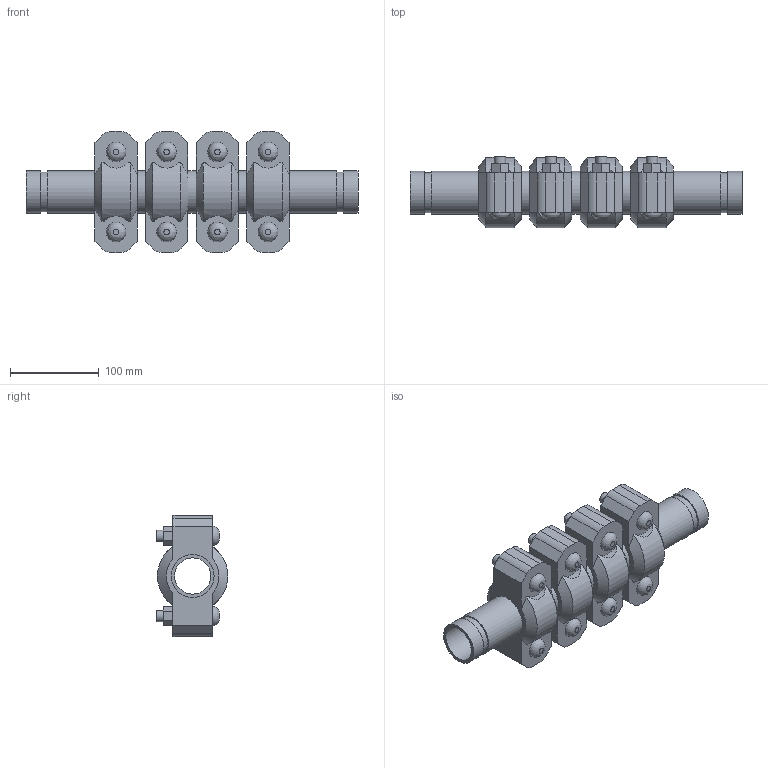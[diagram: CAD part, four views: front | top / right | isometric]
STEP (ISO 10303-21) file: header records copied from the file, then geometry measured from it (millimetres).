
FILE_DESCRIPTION(/* description */ ('VIC EXPANSION JOINT 4 COUPLINGS COMPRESSED STYLE 155 (OGS)','CAx-IF Rec.Pracs.---Representation and Presentation of Product Manufacturing Information (PMI)---4.0---2014-10-13'),/* implementation_level */ '2;1');
FILE_NAME(/* name */ 'C:\Users\kkamble\AppData\Roaming\Autodesk\ApplicationPlugins\Victaulic.Temp\A318\Victaulic_IPS_Expansion Joint_Compressed_4 Couplings_Style 155 (OGS)_1.5 (40).stp',/* time_stamp */ '2021-06-27T00:27:11+02:00',/* author */ ('kkamble'),/* organization */ ('Victaulic'),/* preprocessor_version */ 'ST-DEVELOPER v17.2',/* originating_system */ 'Autodesk Inventor 2019',/* authorisation */ '');
FILE_SCHEMA (('AP242_MANAGED_MODEL_BASED_3D_ENGINEERING_MIM_LF { 1 0 10303 442 1 1 4 }'));
Length unit declared in the file: inch
Products named in the file (4): 155-01.5; Nipple-01.5; Nipple-01.5_1; 077-01.5
Assembly tree (9 placements, depth 2):
  155-01.5
    Nipple-01.5  x2
    Nipple-01.5_1  x3
    077-01.5  x4
Bounding box: 374.65 x 81.03 x 136.65 mm (x, y, z)
Volume: 1227555 mm3; surface area: 292778.6 mm2
Topology: 9 solids, 17 shells, 288 faces, 706 edges, 496 vertices
Faces by surface type: plane 166, cylinder 98, cone 16, bspline 8
Full cylindrical faces by diameter (mm): 12.7 x16, 14.605 x8, 40.894 x5, 45.085 x10, 48.26 x19
Entity records: 2907 total; most frequent: CARTESIAN_POINT 587, DIRECTION 463, ORIENTED_EDGE 398, EDGE_CURVE 199, AXIS2_PLACEMENT_3D 184, VERTEX_POINT 142, EDGE_LOOP 105, LINE 95
